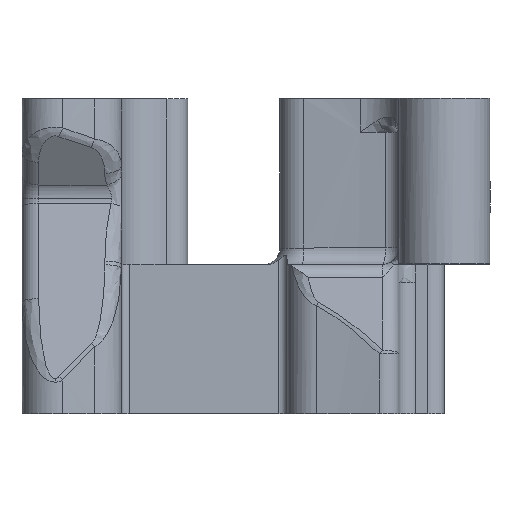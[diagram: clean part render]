
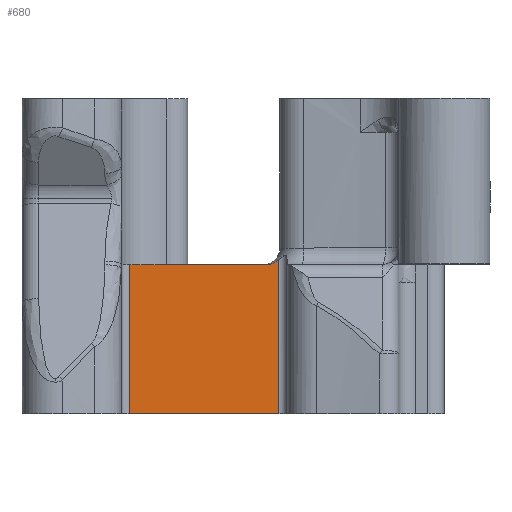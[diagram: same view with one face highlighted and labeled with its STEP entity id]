
A CAD part, top view. The second image highlights one B-rep face of the part: STEP entity #680.
In plain terms, the highlighted planar face has unit normal (0, 0, 1).
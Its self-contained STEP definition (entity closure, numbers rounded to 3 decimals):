
#23 = VERTEX_POINT ( 'NONE', #362 ) ;
#207 = DIRECTION ( 'NONE',  ( 0., -1., 0. ) ) ;
#279 = CARTESIAN_POINT ( 'NONE',  ( 12.764, 9.024, 0.5 ) ) ;
#362 = CARTESIAN_POINT ( 'NONE',  ( 13.25, 0., 0.5 ) ) ;
#420 = VERTEX_POINT ( 'NONE', #3267 ) ;
#553 = LINE ( 'NONE', #2927, #1156 ) ;
#572 = CARTESIAN_POINT ( 'NONE',  ( 13.25, 9.274, 0.5 ) ) ;
#589 = CARTESIAN_POINT ( 'NONE',  ( 13.25, 9., 0.5 ) ) ;
#651 = EDGE_CURVE ( 'NONE', #3283, #23, #553, .T. ) ;
#680 = ADVANCED_FACE ( 'NONE', ( #1688 ), #1693, .F. ) ;
#765 = VECTOR ( 'NONE', #2983, 1000. ) ;
#798 = EDGE_CURVE ( 'NONE', #3683, #2235, #2160, .T. ) ;
#810 = DIRECTION ( 'NONE',  ( -1., 0., 0. ) ) ;
#959 = CARTESIAN_POINT ( 'NONE',  ( 13.25, 9.274, 0.5 ) ) ;
#979 = EDGE_CURVE ( 'NONE', #2235, #420, #1356, .T. ) ;
#1061 = EDGE_CURVE ( 'NONE', #3683, #1285, #3085, .T. ) ;
#1156 = VECTOR ( 'NONE', #207, 1000. ) ;
#1264 = VECTOR ( 'NONE', #1395, 1000. ) ;
#1285 = VERTEX_POINT ( 'NONE', #3463 ) ;
#1348 = ORIENTED_EDGE ( 'NONE', *, *, #2919, .T. ) ;
#1356 = LINE ( 'NONE', #3227, #3441 ) ;
#1381 = B_SPLINE_CURVE_WITH_KNOTS ( 'NONE', 3,
 ( #572, #3592, #1507, #279, #2672, #1808 ),
 .UNSPECIFIED., .F., .F.,
 ( 4, 2, 4 ),
 ( 0., 0., 0.001 ),
 .UNSPECIFIED. ) ;
#1395 = DIRECTION ( 'NONE',  ( 0., -1., 0. ) ) ;
#1419 = ORIENTED_EDGE ( 'NONE', *, *, #798, .F. ) ;
#1507 = CARTESIAN_POINT ( 'NONE',  ( 13.024, 9.118, 0.5 ) ) ;
#1688 = FACE_OUTER_BOUND ( 'NONE', #3460, .T. ) ;
#1693 = PLANE ( 'NONE',  #3468 ) ;
#1808 = CARTESIAN_POINT ( 'NONE',  ( 12.491, 9., 0.5 ) ) ;
#2104 = DIRECTION ( 'NONE',  ( 1., 0., 0. ) ) ;
#2160 = LINE ( 'NONE', #589, #2210 ) ;
#2210 = VECTOR ( 'NONE', #2104, 1000. ) ;
#2235 = VERTEX_POINT ( 'NONE', #3203 ) ;
#2331 = CARTESIAN_POINT ( 'NONE',  ( 4.25, 8., 0.5 ) ) ;
#2591 = ORIENTED_EDGE ( 'NONE', *, *, #651, .F. ) ;
#2633 = DIRECTION ( 'NONE',  ( 0., 0., -1. ) ) ;
#2672 = CARTESIAN_POINT ( 'NONE',  ( 12.63, 9., 0.5 ) ) ;
#2718 = CARTESIAN_POINT ( 'NONE',  ( 4.25, 0., 0.5 ) ) ;
#2919 = EDGE_CURVE ( 'NONE', #1285, #23, #3732, .T. ) ;
#2927 = CARTESIAN_POINT ( 'NONE',  ( 13.25, 8., 0.5 ) ) ;
#2933 = EDGE_CURVE ( 'NONE', #3283, #420, #1381, .T. ) ;
#2983 = DIRECTION ( 'NONE',  ( 1., 0., 0. ) ) ;
#2988 = ORIENTED_EDGE ( 'NONE', *, *, #979, .F. ) ;
#3082 = ORIENTED_EDGE ( 'NONE', *, *, #1061, .T. ) ;
#3085 = LINE ( 'NONE', #2331, #1264 ) ;
#3162 = CARTESIAN_POINT ( 'NONE',  ( 4.25, 9., 0.5 ) ) ;
#3203 = CARTESIAN_POINT ( 'NONE',  ( 6.5, 9., 0.5 ) ) ;
#3227 = CARTESIAN_POINT ( 'NONE',  ( 13.25, 9., 0.5 ) ) ;
#3267 = CARTESIAN_POINT ( 'NONE',  ( 12.491, 9., 0.5 ) ) ;
#3283 = VERTEX_POINT ( 'NONE', #959 ) ;
#3441 = VECTOR ( 'NONE', #3483, 1000. ) ;
#3460 = EDGE_LOOP ( 'NONE', ( #1348, #2591, #3679, #2988, #1419, #3082 ) ) ;
#3463 = CARTESIAN_POINT ( 'NONE',  ( 4.25, 0., 0.5 ) ) ;
#3468 = AXIS2_PLACEMENT_3D ( 'NONE', #3795, #2633, #810 ) ;
#3483 = DIRECTION ( 'NONE',  ( 1., 0., 0. ) ) ;
#3592 = CARTESIAN_POINT ( 'NONE',  ( 13.143, 9.186, 0.5 ) ) ;
#3679 = ORIENTED_EDGE ( 'NONE', *, *, #2933, .T. ) ;
#3683 = VERTEX_POINT ( 'NONE', #3162 ) ;
#3732 = LINE ( 'NONE', #2718, #765 ) ;
#3795 = CARTESIAN_POINT ( 'NONE',  ( 4.25, 8., 0.5 ) ) ;
